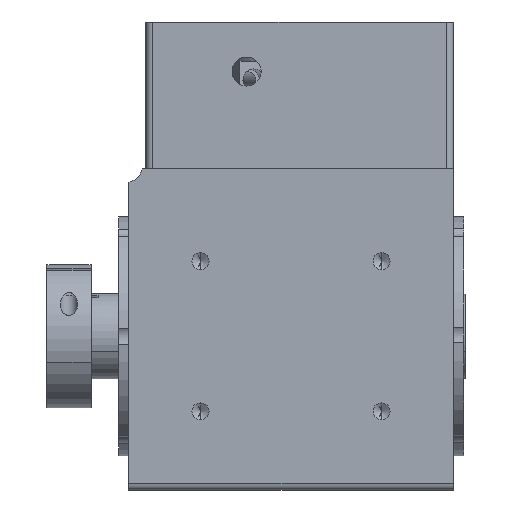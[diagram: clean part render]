
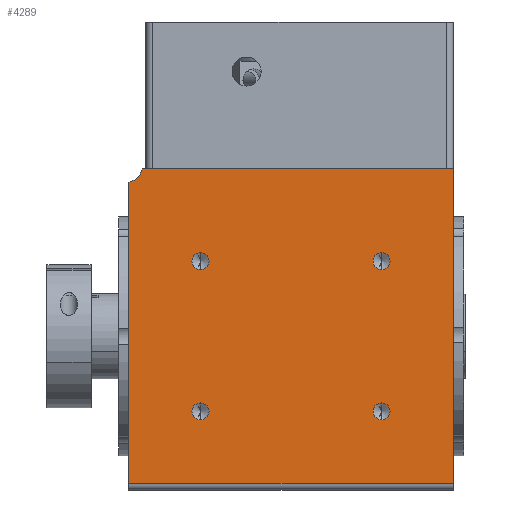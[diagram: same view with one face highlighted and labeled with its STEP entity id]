
A CAD part, front view. The second image highlights one B-rep face of the part: STEP entity #4289.
In plain terms, the highlighted planar face has unit normal (0, -1, 0).
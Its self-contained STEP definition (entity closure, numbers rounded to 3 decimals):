
#34 = CARTESIAN_POINT ( 'NONE',  ( -33.844, -60.486, 94. ) ) ;
#182 = VECTOR ( 'NONE', #11363, 1000. ) ;
#414 = CARTESIAN_POINT ( 'NONE',  ( -16.743, -60.486, 67. ) ) ;
#917 = AXIS2_PLACEMENT_3D ( 'NONE', #14631, #32807, #17234 ) ;
#1028 = ORIENTED_EDGE ( 'NONE', *, *, #8334, .F. ) ;
#1206 = DIRECTION ( 'NONE',  ( 0., 1., 0. ) ) ;
#1841 = DIRECTION ( 'NONE',  ( 0., -1., 0. ) ) ;
#1856 = FACE_BOUND ( 'NONE', #2755, .T. ) ;
#1869 = VERTEX_POINT ( 'NONE', #16366 ) ;
#1892 = VERTEX_POINT ( 'NONE', #13995 ) ;
#2214 = EDGE_CURVE ( 'NONE', #1892, #30811, #19382, .T. ) ;
#2511 = DIRECTION ( 'NONE',  ( 0., 0., -1. ) ) ;
#2518 = ORIENTED_EDGE ( 'NONE', *, *, #19949, .F. ) ;
#2664 = FACE_BOUND ( 'NONE', #15305, .T. ) ;
#2755 = EDGE_LOOP ( 'NONE', ( #18453, #29495 ) ) ;
#2885 = DIRECTION ( 'NONE',  ( 0., -1., 0. ) ) ;
#2994 = DIRECTION ( 'NONE',  ( 0., 0., -1. ) ) ;
#3156 = VECTOR ( 'NONE', #10564, 1000. ) ;
#3260 = CIRCLE ( 'NONE', #15673, 2.5 ) ;
#3476 = FACE_BOUND ( 'NONE', #7374, .T. ) ;
#3617 = AXIS2_PLACEMENT_3D ( 'NONE', #17370, #1841, #19976 ) ;
#4191 = AXIS2_PLACEMENT_3D ( 'NONE', #10227, #28387, #12816 ) ;
#4289 = ADVANCED_FACE ( 'NONE', ( #2664, #3476, #1856, #8764, #22558 ), #6154, .F. ) ;
#4573 = CARTESIAN_POINT ( 'NONE',  ( -16.743, -60.486, 64.5 ) ) ;
#4666 = AXIS2_PLACEMENT_3D ( 'NONE', #25272, #9743, #27889 ) ;
#5261 = ORIENTED_EDGE ( 'NONE', *, *, #21253, .F. ) ;
#5563 = VERTEX_POINT ( 'NONE', #23257 ) ;
#5687 = CARTESIAN_POINT ( 'NONE',  ( -38.743, -60.486, 95. ) ) ;
#5743 = CIRCLE ( 'NONE', #20568, 2.5 ) ;
#5854 = CARTESIAN_POINT ( 'NONE',  ( 36.257, -60.486, 20.5 ) ) ;
#6154 = PLANE ( 'NONE',  #15386 ) ;
#6278 = CARTESIAN_POINT ( 'NONE',  ( -16.743, -60.486, 69.5 ) ) ;
#6565 = VERTEX_POINT ( 'NONE', #5854 ) ;
#7080 = EDGE_CURVE ( 'NONE', #5563, #19600, #33677, .T. ) ;
#7374 = EDGE_LOOP ( 'NONE', ( #2518, #28193 ) ) ;
#8166 = ORIENTED_EDGE ( 'NONE', *, *, #9923, .F. ) ;
#8330 = DIRECTION ( 'NONE',  ( 0., 0., -1. ) ) ;
#8334 = EDGE_CURVE ( 'NONE', #19600, #24012, #18567, .T. ) ;
#8584 = ORIENTED_EDGE ( 'NONE', *, *, #26451, .T. ) ;
#8764 = FACE_BOUND ( 'NONE', #33234, .T. ) ;
#9743 = DIRECTION ( 'NONE',  ( 0., -1., 0. ) ) ;
#9791 = CARTESIAN_POINT ( 'NONE',  ( -37.743, -60.486, 94. ) ) ;
#9923 = EDGE_CURVE ( 'NONE', #25876, #22367, #31911, .T. ) ;
#10227 = CARTESIAN_POINT ( 'NONE',  ( -16.743, -60.486, 23. ) ) ;
#10377 = ORIENTED_EDGE ( 'NONE', *, *, #21754, .F. ) ;
#10564 = DIRECTION ( 'NONE',  ( 1., 0., 0. ) ) ;
#11057 = CARTESIAN_POINT ( 'NONE',  ( -37.743, -60.486, 2. ) ) ;
#11363 = DIRECTION ( 'NONE',  ( 1., 0., 0. ) ) ;
#11414 = CARTESIAN_POINT ( 'NONE',  ( -37.743, -60.486, 94. ) ) ;
#12816 = DIRECTION ( 'NONE',  ( 0., 0., -1. ) ) ;
#13513 = DIRECTION ( 'NONE',  ( 0., 0., -1. ) ) ;
#13995 = CARTESIAN_POINT ( 'NONE',  ( 36.257, -60.486, 69.5 ) ) ;
#14193 = VECTOR ( 'NONE', #13513, 1000. ) ;
#14631 = CARTESIAN_POINT ( 'NONE',  ( 36.257, -60.486, 67. ) ) ;
#14817 = EDGE_LOOP ( 'NONE', ( #8584, #30608, #10377, #1028, #33394 ) ) ;
#14905 = DIRECTION ( 'NONE',  ( 0., -1., 0. ) ) ;
#15022 = EDGE_CURVE ( 'NONE', #6565, #1869, #23970, .T. ) ;
#15190 = LINE ( 'NONE', #9791, #28185 ) ;
#15305 = EDGE_LOOP ( 'NONE', ( #8166, #27202 ) ) ;
#15386 = AXIS2_PLACEMENT_3D ( 'NONE', #11414, #1206, #19317 ) ;
#15428 = EDGE_CURVE ( 'NONE', #22367, #25876, #24354, .T. ) ;
#15673 = AXIS2_PLACEMENT_3D ( 'NONE', #18388, #2885, #21028 ) ;
#16366 = CARTESIAN_POINT ( 'NONE',  ( 36.257, -60.486, 25.5 ) ) ;
#16763 = VERTEX_POINT ( 'NONE', #26198 ) ;
#17234 = DIRECTION ( 'NONE',  ( 0., 0., -1. ) ) ;
#17370 = CARTESIAN_POINT ( 'NONE',  ( 36.257, -60.486, 23. ) ) ;
#18021 = DIRECTION ( 'NONE',  ( 0., -1., 0. ) ) ;
#18059 = AXIS2_PLACEMENT_3D ( 'NONE', #5687, #23883, #8330 ) ;
#18388 = CARTESIAN_POINT ( 'NONE',  ( 36.257, -60.486, 23. ) ) ;
#18453 = ORIENTED_EDGE ( 'NONE', *, *, #33486, .F. ) ;
#18512 = DIRECTION ( 'NONE',  ( 0., -1., 0. ) ) ;
#18567 = LINE ( 'NONE', #28736, #3156 ) ;
#19317 = DIRECTION ( 'NONE',  ( 0., 0., 1. ) ) ;
#19382 = CIRCLE ( 'NONE', #29301, 2.5 ) ;
#19600 = VERTEX_POINT ( 'NONE', #34 ) ;
#19949 = EDGE_CURVE ( 'NONE', #30811, #1892, #21122, .T. ) ;
#19976 = DIRECTION ( 'NONE',  ( 0., 0., -1. ) ) ;
#20306 = AXIS2_PLACEMENT_3D ( 'NONE', #414, #18512, #2994 ) ;
#20568 = AXIS2_PLACEMENT_3D ( 'NONE', #30461, #14905, #33072 ) ;
#21028 = DIRECTION ( 'NONE',  ( 0., 0., -1. ) ) ;
#21122 = CIRCLE ( 'NONE', #917, 2.5 ) ;
#21253 = EDGE_CURVE ( 'NONE', #1869, #6565, #3260, .T. ) ;
#21754 = EDGE_CURVE ( 'NONE', #24012, #31485, #28008, .T. ) ;
#22367 = VERTEX_POINT ( 'NONE', #6278 ) ;
#22558 = FACE_OUTER_BOUND ( 'NONE', #14817, .T. ) ;
#23257 = CARTESIAN_POINT ( 'NONE',  ( -37.743, -60.486, 90.101 ) ) ;
#23341 = EDGE_CURVE ( 'NONE', #16763, #27994, #29974, .T. ) ;
#23883 = DIRECTION ( 'NONE',  ( 0., -1., 0. ) ) ;
#23970 = CIRCLE ( 'NONE', #3617, 2.5 ) ;
#24012 = VERTEX_POINT ( 'NONE', #31506 ) ;
#24281 = ORIENTED_EDGE ( 'NONE', *, *, #15022, .F. ) ;
#24354 = CIRCLE ( 'NONE', #4666, 2.5 ) ;
#24387 = CARTESIAN_POINT ( 'NONE',  ( 57.257, -60.486, 2. ) ) ;
#25243 = CARTESIAN_POINT ( 'NONE',  ( 36.257, -60.486, 64.5 ) ) ;
#25272 = CARTESIAN_POINT ( 'NONE',  ( -16.743, -60.486, 67. ) ) ;
#25876 = VERTEX_POINT ( 'NONE', #4573 ) ;
#26198 = CARTESIAN_POINT ( 'NONE',  ( -16.743, -60.486, 25.5 ) ) ;
#26451 = EDGE_CURVE ( 'NONE', #5563, #32274, #15190, .T. ) ;
#26649 = CARTESIAN_POINT ( 'NONE',  ( -16.743, -60.486, 20.5 ) ) ;
#26811 = EDGE_CURVE ( 'NONE', #32274, #31485, #26958, .T. ) ;
#26958 = LINE ( 'NONE', #24387, #182 ) ;
#27202 = ORIENTED_EDGE ( 'NONE', *, *, #15428, .F. ) ;
#27889 = DIRECTION ( 'NONE',  ( 0., 0., -1. ) ) ;
#27948 = DIRECTION ( 'NONE',  ( 0., 0., -1. ) ) ;
#27994 = VERTEX_POINT ( 'NONE', #26649 ) ;
#28008 = LINE ( 'NONE', #29073, #14193 ) ;
#28185 = VECTOR ( 'NONE', #27948, 1000. ) ;
#28193 = ORIENTED_EDGE ( 'NONE', *, *, #2214, .F. ) ;
#28387 = DIRECTION ( 'NONE',  ( 0., -1., 0. ) ) ;
#28736 = CARTESIAN_POINT ( 'NONE',  ( -37.743, -60.486, 94. ) ) ;
#28952 = CARTESIAN_POINT ( 'NONE',  ( 57.257, -60.486, 2. ) ) ;
#29073 = CARTESIAN_POINT ( 'NONE',  ( 57.257, -60.486, 94. ) ) ;
#29301 = AXIS2_PLACEMENT_3D ( 'NONE', #33610, #18021, #2511 ) ;
#29495 = ORIENTED_EDGE ( 'NONE', *, *, #23341, .F. ) ;
#29974 = CIRCLE ( 'NONE', #4191, 2.5 ) ;
#30461 = CARTESIAN_POINT ( 'NONE',  ( -16.743, -60.486, 23. ) ) ;
#30608 = ORIENTED_EDGE ( 'NONE', *, *, #26811, .T. ) ;
#30811 = VERTEX_POINT ( 'NONE', #25243 ) ;
#31485 = VERTEX_POINT ( 'NONE', #28952 ) ;
#31506 = CARTESIAN_POINT ( 'NONE',  ( 57.257, -60.486, 94. ) ) ;
#31911 = CIRCLE ( 'NONE', #20306, 2.5 ) ;
#32274 = VERTEX_POINT ( 'NONE', #11057 ) ;
#32807 = DIRECTION ( 'NONE',  ( 0., -1., 0. ) ) ;
#33072 = DIRECTION ( 'NONE',  ( 0., 0., -1. ) ) ;
#33234 = EDGE_LOOP ( 'NONE', ( #24281, #5261 ) ) ;
#33394 = ORIENTED_EDGE ( 'NONE', *, *, #7080, .F. ) ;
#33486 = EDGE_CURVE ( 'NONE', #27994, #16763, #5743, .T. ) ;
#33610 = CARTESIAN_POINT ( 'NONE',  ( 36.257, -60.486, 67. ) ) ;
#33677 = CIRCLE ( 'NONE', #18059, 5. ) ;
